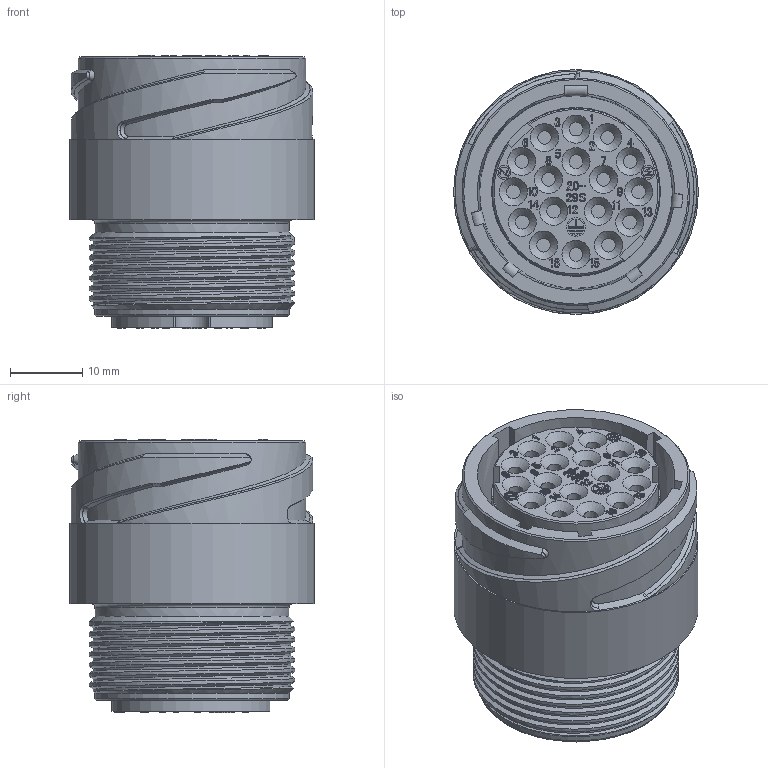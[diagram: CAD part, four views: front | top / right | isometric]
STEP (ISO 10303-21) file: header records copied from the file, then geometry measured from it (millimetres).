
FILE_DESCRIPTION (( 'STEP AP203' ), '1' );
FILE_NAME ('CE01-1A20-29SC-D0(R1).STEP', '2021-05-10T05:25:41', ( '' ), ( '' ), 'SwSTEP 2.0', 'SolidWorks 2018', '' );
FILE_SCHEMA (( 'CONFIG_CONTROL_DESIGN' ));
Length unit declared in the file: millimetre
Products named in the file (1): CE01-1A20-29SC-D0(R1)
Bounding box: 33.95 x 33.95 x 37.9 mm (x, y, z)
Volume: 23810.5 mm3; surface area: 10656.4 mm2
Topology: 1 solids, 1 shells, 1306 faces, 3471 edges, 2294 vertices
Faces by surface type: bspline 661, plane 527, cylinder 77, cone 37, torus 4
Full cylindrical faces by diameter (mm): 1.5 x2, 1.9 x19, 2.6 x2, 3.8 x16, 23.4 x1, 26.9 x2, 29.77 x1, 31.55 x1, 33.95 x1
Entity records: 68666 total; most frequent: CARTESIAN_POINT 41090, ORIENTED_EDGE 6744, DIRECTION 3496, EDGE_CURVE 3372, VERTEX_POINT 2266, VECTOR 1786, LINE 1786, EDGE_LOOP 1502
